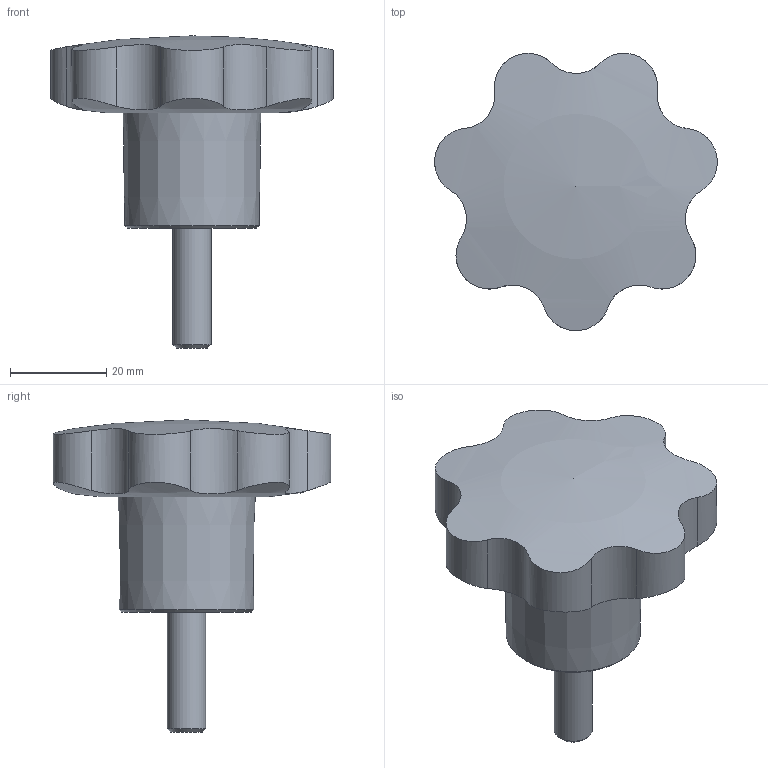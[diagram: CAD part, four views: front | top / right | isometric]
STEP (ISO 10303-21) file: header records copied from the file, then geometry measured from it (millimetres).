
FILE_DESCRIPTION( ('This file contains a STEP AP42 implementation' ,'as created by ZW3D STEP Interface translator.') ,'2;1' );
FILE_NAME( '7.C60.GZ.stp' ,'26 817.105838', (''), ('ZWCAD Software Co.'), 'Version 1.0', 'ZW3D to STEP translator', '' );
FILE_SCHEMA(('AP242_MANAGED_MODEL_BASED_3D_ENGINEERING_MIM_LF { 1 0 10303 442 1 1 4 }'));
Length unit declared in the file: millimetre
Products named in the file (1): 0
Bounding box: 58.83 x 57.72 x 65 mm (x, y, z)
Volume: 49162.1 mm3; surface area: 11633.1 mm2
Topology: 2 solids, 2 shells, 40 faces, 97 edges, 64 vertices
Faces by surface type: plane 19, cylinder 16, cone 3, sphere 1, bspline 1
Full cylindrical faces by diameter (mm): 8 x2
Entity records: 1402 total; most frequent: CARTESIAN_POINT 451, ORIENTED_EDGE 192, DIRECTION 157, EDGE_CURVE 96, VERTEX_POINT 64, VECTOR 55, LINE 55, AXIS2_PLACEMENT_3D 51
